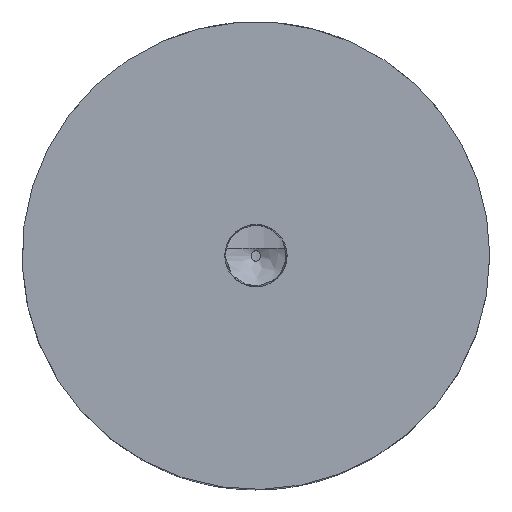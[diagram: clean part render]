
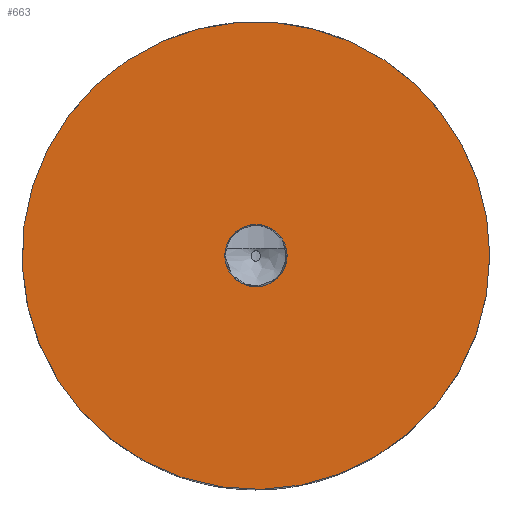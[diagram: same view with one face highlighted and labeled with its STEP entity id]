
A CAD part, top view. The second image highlights one B-rep face of the part: STEP entity #663.
In plain terms, the highlighted planar face has unit normal (0, 0, 1).
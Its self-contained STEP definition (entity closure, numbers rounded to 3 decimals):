
#369=CARTESIAN_POINT('',(15.0,0.,20.0));
#370=VERTEX_POINT('',#369);
#371=CARTESIAN_POINT('',(0.0,0.0,20.0));
#372=DIRECTION('',(0.0,0.0,-1.0));
#373=DIRECTION('',(-1.0,0.0,0.0));
#374=AXIS2_PLACEMENT_3D('',#371,#372,#373);
#375=CIRCLE('',#374,15.0);
#376=EDGE_CURVE('',#370,#370,#375,.T.);
#624=CARTESIAN_POINT('',(2.0,0.0,20.0));
#625=VERTEX_POINT('',#624);
#626=CARTESIAN_POINT('',(0.0,0.0,20.0));
#627=DIRECTION('',(0.0,0.0,-1.0));
#628=DIRECTION('',(1.0,0.0,0.0));
#629=AXIS2_PLACEMENT_3D('',#626,#627,#628);
#630=CIRCLE('',#629,2.0);
#631=EDGE_CURVE('',#625,#625,#630,.T.);
#652=CARTESIAN_POINT('',(0.0,0.0,20.0));
#653=DIRECTION('',(0.0,0.0,-1.0));
#654=DIRECTION('',(-1.0,0.0,0.0));
#655=AXIS2_PLACEMENT_3D('',#652,#653,#654);
#656=PLANE('',#655);
#657=ORIENTED_EDGE('',*,*,#376,.F.);
#658=EDGE_LOOP('',(#657));
#659=FACE_OUTER_BOUND('',#658,.T.);
#660=ORIENTED_EDGE('',*,*,#631,.T.);
#661=EDGE_LOOP('',(#660));
#662=FACE_BOUND('',#661,.T.);
#663=ADVANCED_FACE('',(#659,#662),#656,.F.);
